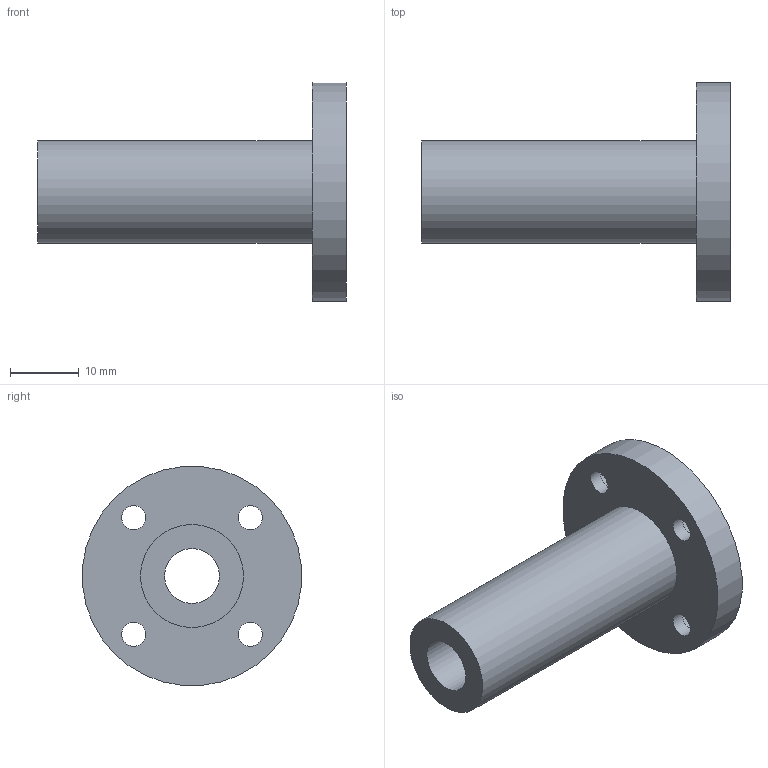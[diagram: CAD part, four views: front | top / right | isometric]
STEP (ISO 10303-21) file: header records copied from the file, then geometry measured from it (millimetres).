
FILE_DESCRIPTION(/* description */ (''),/* implementation_level */ '2;1');
FILE_NAME(/* name */ 'LMF8LUU',/* time_stamp */ '2019-07-03T10:03:33+02:00',/* author */ ('VĂ©gh MĂˇtĂ©'),/* organization */ ('Bearing Kft'),/* preprocessor_version */ 'ST-DEVELOPER v16.7',/* originating_system */ 'DEX',/* authorisation */ $);
FILE_SCHEMA (('AUTOMOTIVE_DESIGN {1 0 10303 214 3 1 1}'));
Length unit declared in the file: millimetre
Products named in the file (1): LMF8LUU
Bounding box: 45 x 31.88 x 31.88 mm (x, y, z)
Volume: 8403.5 mm3; surface area: 5276.9 mm2
Topology: 1 solids, 1 shells, 322 faces, 804 edges, 536 vertices
Faces by surface type: plane 246, bspline 63, cylinder 13
Full cylindrical faces by diameter (mm): 3.5 x4, 6 x4, 8 x1, 15 x1, 32 x1
Entity records: 11958 total; most frequent: CARTESIAN_POINT 4654, ORIENTED_EDGE 1580, DIRECTION 1210, EDGE_CURVE 790, LINE 638, VECTOR 638, VERTEX_POINT 536, EDGE_LOOP 398
